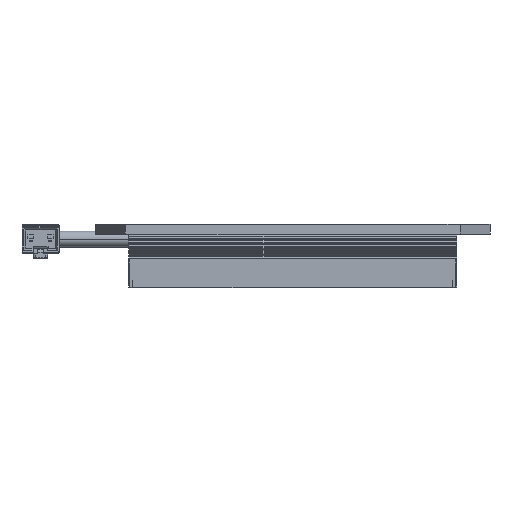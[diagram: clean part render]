
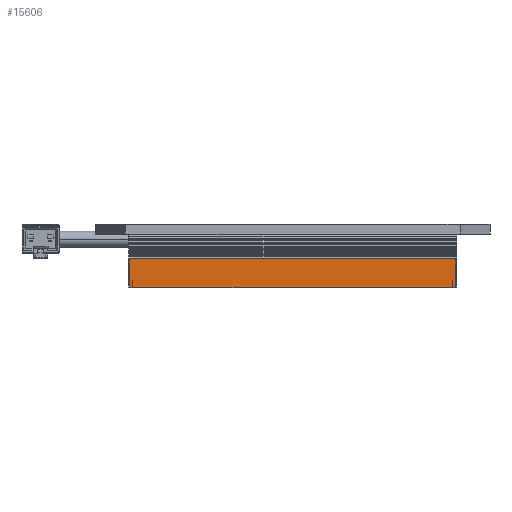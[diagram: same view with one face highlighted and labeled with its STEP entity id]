
A CAD part, left-side view. The second image highlights one B-rep face of the part: STEP entity #15606.
In plain terms, the highlighted planar face has unit normal (-1, 0, 0).
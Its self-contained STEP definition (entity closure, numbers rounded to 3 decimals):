
#2677=DIRECTION('',(0.,1.,0.));
#2678=VECTOR('',#2677,0.2);
#2679=CARTESIAN_POINT('',(-46.5,45.3,-13.));
#2680=LINE('',#2679,#2678);
#2685=DIRECTION('',(0.,1.,0.));
#2686=VECTOR('',#2685,0.2);
#2687=CARTESIAN_POINT('',(-46.5,-45.5,-13.));
#2688=LINE('',#2687,#2686);
#2701=DIRECTION('',(0.,0.,1.));
#2702=VECTOR('',#2701,2.);
#2703=CARTESIAN_POINT('',(-46.5,-45.3,-15.));
#2704=LINE('',#2703,#2702);
#2705=DIRECTION('',(0.,-1.,0.));
#2706=VECTOR('',#2705,90.6);
#2707=CARTESIAN_POINT('',(-46.5,45.3,-15.));
#2708=LINE('',#2707,#2706);
#2709=DIRECTION('',(0.,0.,-1.));
#2710=VECTOR('',#2709,2.);
#2711=CARTESIAN_POINT('',(-46.5,45.3,-13.));
#2712=LINE('',#2711,#2710);
#2713=DIRECTION('',(0.,-1.,0.));
#2714=VECTOR('',#2713,0.8);
#2715=CARTESIAN_POINT('',(-46.5,-45.5,-14.8));
#2716=LINE('',#2715,#2714);
#2717=DIRECTION('',(0.,0.,-1.));
#2718=VECTOR('',#2717,1.8);
#2719=CARTESIAN_POINT('',(-46.5,-45.5,-13.));
#2720=LINE('',#2719,#2718);
#2741=DIRECTION('',(0.,0.,-1.));
#2742=VECTOR('',#2741,1.8);
#2743=CARTESIAN_POINT('',(-46.5,45.5,-13.));
#2744=LINE('',#2743,#2742);
#6159=DIRECTION('',(0.,0.,1.));
#6160=VECTOR('',#6159,7.95);
#6161=CARTESIAN_POINT('',(-46.5,46.3,-14.8));
#6162=LINE('',#6161,#6160);
#6163=DIRECTION('',(0.,-1.,0.));
#6164=VECTOR('',#6163,92.6);
#6165=CARTESIAN_POINT('',(-46.5,46.3,-6.85));
#6166=LINE('',#6165,#6164);
#6171=DIRECTION('',(0.,0.,-1.));
#6172=VECTOR('',#6171,7.95);
#6173=CARTESIAN_POINT('',(-46.5,-46.3,-6.85));
#6174=LINE('',#6173,#6172);
#6249=DIRECTION('',(0.,1.,0.));
#6250=VECTOR('',#6249,0.8);
#6251=CARTESIAN_POINT('',(-46.5,45.5,-14.8));
#6252=LINE('',#6251,#6250);
#9420=CARTESIAN_POINT('',(-46.5,-45.5,-14.8));
#9422=VERTEX_POINT('',#9420);
#9423=CARTESIAN_POINT('',(-46.5,-45.5,-13.));
#9424=VERTEX_POINT('',#9423);
#9425=CARTESIAN_POINT('',(-46.5,-46.3,-14.8));
#9426=VERTEX_POINT('',#9425);
#9431=CARTESIAN_POINT('',(-46.5,46.3,-6.85));
#9432=CARTESIAN_POINT('',(-46.5,-46.3,-6.85));
#9433=VERTEX_POINT('',#9431);
#9434=VERTEX_POINT('',#9432);
#9435=CARTESIAN_POINT('',(-46.5,45.5,-13.));
#9436=CARTESIAN_POINT('',(-46.5,45.5,-14.8));
#9437=VERTEX_POINT('',#9435);
#9438=VERTEX_POINT('',#9436);
#9439=CARTESIAN_POINT('',(-46.5,46.3,-14.8));
#9440=VERTEX_POINT('',#9439);
#9613=CARTESIAN_POINT('',(-46.5,45.3,-15.));
#9615=VERTEX_POINT('',#9613);
#9616=CARTESIAN_POINT('',(-46.5,-45.3,-15.));
#9617=VERTEX_POINT('',#9616);
#11373=CARTESIAN_POINT('',(-46.5,45.3,-13.));
#11375=VERTEX_POINT('',#11373);
#11377=CARTESIAN_POINT('',(-46.5,-45.3,-13.));
#11379=VERTEX_POINT('',#11377);
#15579=CARTESIAN_POINT('',(-46.5,-46.5,0.));
#15580=DIRECTION('',(-1.,0.,0.));
#15581=DIRECTION('',(0.,1.,0.));
#15582=AXIS2_PLACEMENT_3D('',#15579,#15580,#15581);
#15583=PLANE('',#15582);
#15584=ORIENTED_EDGE('',*,*,#15558,.T.);
#15586=ORIENTED_EDGE('',*,*,#15585,.F.);
#15587=ORIENTED_EDGE('',*,*,#12022,.F.);
#15588=ORIENTED_EDGE('',*,*,#15572,.F.);
#15589=ORIENTED_EDGE('',*,*,#15546,.T.);
#15591=ORIENTED_EDGE('',*,*,#15590,.T.);
#15593=ORIENTED_EDGE('',*,*,#15592,.T.);
#15595=ORIENTED_EDGE('',*,*,#15594,.T.);
#15597=ORIENTED_EDGE('',*,*,#15596,.T.);
#15599=ORIENTED_EDGE('',*,*,#15598,.T.);
#15601=ORIENTED_EDGE('',*,*,#15600,.F.);
#15603=ORIENTED_EDGE('',*,*,#15602,.F.);
#15604=EDGE_LOOP('',(#15584,#15586,#15587,#15588,#15589,#15591,#15593,#15595,
#15597,#15599,#15601,#15603));
#15605=FACE_OUTER_BOUND('',#15604,.F.);
#15606=ADVANCED_FACE('',(#15605),#15583,.T.);
#12022=EDGE_CURVE('',#9615,#9617,#2708,.T.);
#15546=EDGE_CURVE('',#11375,#9437,#2680,.T.);
#15558=EDGE_CURVE('',#9424,#11379,#2688,.T.);
#15572=EDGE_CURVE('',#11375,#9615,#2712,.T.);
#15585=EDGE_CURVE('',#9617,#11379,#2704,.T.);
#15590=EDGE_CURVE('',#9437,#9438,#2744,.T.);
#15592=EDGE_CURVE('',#9438,#9440,#6252,.T.);
#15594=EDGE_CURVE('',#9440,#9433,#6162,.T.);
#15596=EDGE_CURVE('',#9433,#9434,#6166,.T.);
#15598=EDGE_CURVE('',#9434,#9426,#6174,.T.);
#15600=EDGE_CURVE('',#9422,#9426,#2716,.T.);
#15602=EDGE_CURVE('',#9424,#9422,#2720,.T.);
